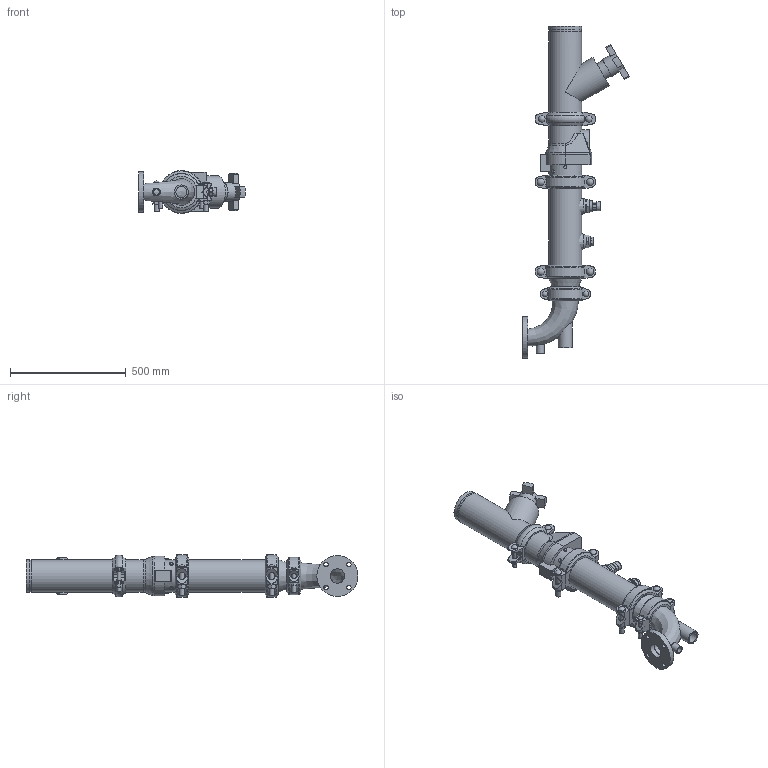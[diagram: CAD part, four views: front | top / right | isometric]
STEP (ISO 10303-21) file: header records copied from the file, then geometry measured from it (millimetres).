
FILE_DESCRIPTION(/* description */ ('VIC DVI PUMP DROP HORZ S/383 (OGSxFLG) (S/924-0.75)','CAx-IF Rec.Pracs.---Representation and Presentation of Product Manufacturing Information (PMI)---4.0---2014-10-13'),/* implementation_level */ '2;1');
FILE_NAME(/* name */ 'C:\Users\Vjadhav\AppData\Roaming\Autodesk\ApplicationPlugins\Victaulic.Temp\A892\Victaulic_IPS_Horizontal DVI_CL 150_Series 383 (OGSxFLG)_924 (0.75)_05.0x02.5 (125x65).stp',/* time_stamp */ '2022-02-28T15:43:10+05:00',/* author */ ('kkamble'),/* organization */ ('Victaulic'),/* preprocessor_version */ 'ST-DEVELOPER v17.2',/* originating_system */ 'Autodesk Inventor 2019',/* authorisation */ '');
FILE_SCHEMA (('AP242_MANAGED_MODEL_BASED_3D_ENGINEERING_MIM_LF { 1 0 10303 442 1 1 4 }'));
Length unit declared in the file: inch
Products named in the file (11): 383-924 (0.75)-05.0x02.5; Pipe-05.0; 177N-05.0; 107N-05.0; 789-05.0; 779-05.0; 924-04.0x0.75; 923-04.0x0.75; R100F-04.0x02.5; 177N-04.0; 050-05.0x04.0
Assembly tree (11 placements, depth 2):
  383-924 (0.75)-05.0x02.5
    177N-05.0  x2
    Pipe-05.0
    107N-05.0
    789-05.0
    779-05.0
    924-04.0x0.75
    923-04.0x0.75
    R100F-04.0x02.5
    177N-04.0
    050-05.0x04.0
Bounding box: 460.5 x 1435.1 x 185.67 mm (x, y, z)
Volume: 11343997.1 mm3; surface area: 1925634.6 mm2
Topology: 11 solids, 11 shells, 665 faces, 1777 edges, 1185 vertices
Faces by surface type: plane 360, cylinder 228, torus 24, cone 23, bspline 22, sphere 8
Full cylindrical faces by diameter (mm): 13.716 x4, 15.875 x4, 17.424 x2, 19.05 x4, 21.209 x4, 23.495 x2, 26.67 x3, 27.381 x2, 30.48 x4, 34.29 x1, 38.608 x1, 45.974 x4, 48.26 x1, 55.626 x2, 60.96 x1, 62.713 x1, 75.26 x1, 82.55 x1, 101.6 x1, 102.26 x2, 110.084 x2, 114.3 x5, 128.194 x4, 128.6 x3, 137.033 x7, 141.3 x19, 177.8 x1
Entity records: 21045 total; most frequent: CARTESIAN_POINT 5350, DIRECTION 3190, ORIENTED_EDGE 3040, EDGE_CURVE 1520, AXIS2_PLACEMENT_3D 1205, VERTEX_POINT 1013, LINE 780, VECTOR 780
